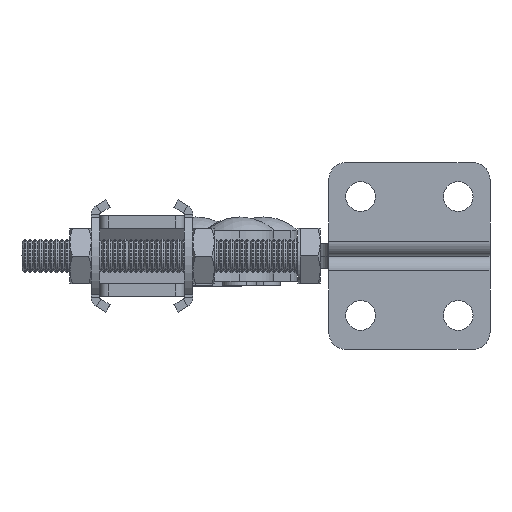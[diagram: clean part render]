
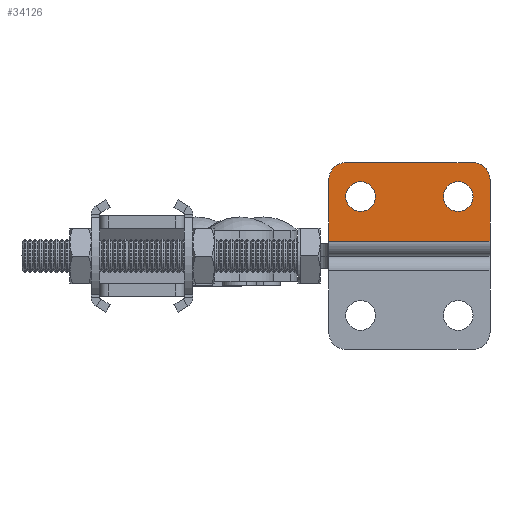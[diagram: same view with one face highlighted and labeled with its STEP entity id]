
A CAD part, left-side view. The second image highlights one B-rep face of the part: STEP entity #34126.
In plain terms, the highlighted planar face has unit normal (-1, 0, 0).
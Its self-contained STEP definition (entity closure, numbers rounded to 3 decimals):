
#644 = DIRECTION ( 'NONE',  ( 1., 0., 0. ) ) ;
#655 = ORIENTED_EDGE ( 'NONE', *, *, #2607, .T. ) ;
#1024 = DIRECTION ( 'NONE',  ( 0., 0., 1. ) ) ;
#1273 = CARTESIAN_POINT ( 'NONE',  ( -67., 4., 18. ) ) ;
#1293 = CARTESIAN_POINT ( 'NONE',  ( -67., 30.5, 14. ) ) ;
#2129 = LINE ( 'NONE', #16642, #14666 ) ;
#2181 = CARTESIAN_POINT ( 'NONE',  ( -67., 34., 18. ) ) ;
#2607 = EDGE_CURVE ( 'NONE', #29112, #19623, #3043, .T. ) ;
#2635 = DIRECTION ( 'NONE',  ( 0., 0., -1. ) ) ;
#2743 = VERTEX_POINT ( 'NONE', #55167 ) ;
#2873 = CARTESIAN_POINT ( 'NONE',  ( -67., 0., 3.5 ) ) ;
#3043 = CIRCLE ( 'NONE', #3358, 4. ) ;
#3358 = AXIS2_PLACEMENT_3D ( 'NONE', #2181, #35123, #6921 ) ;
#4458 = CARTESIAN_POINT ( 'NONE',  ( -67., 0., 22. ) ) ;
#5032 = EDGE_CURVE ( 'NONE', #38546, #54286, #37333, .T. ) ;
#5650 = ORIENTED_EDGE ( 'NONE', *, *, #21322, .T. ) ;
#6012 = DIRECTION ( 'NONE',  ( 0., 0., -1. ) ) ;
#6036 = DIRECTION ( 'NONE',  ( 0., 0., 1. ) ) ;
#6921 = DIRECTION ( 'NONE',  ( 0., 0., -1. ) ) ;
#7484 = ORIENTED_EDGE ( 'NONE', *, *, #20367, .F. ) ;
#7695 = LINE ( 'NONE', #55584, #42302 ) ;
#9392 = CARTESIAN_POINT ( 'NONE',  ( -67., 38., 18. ) ) ;
#10076 = AXIS2_PLACEMENT_3D ( 'NONE', #54179, #25970, #58951 ) ;
#10813 = FACE_BOUND ( 'NONE', #59793, .T. ) ;
#11149 = CARTESIAN_POINT ( 'NONE',  ( -67., 30.5, 17.5 ) ) ;
#11291 = AXIS2_PLACEMENT_3D ( 'NONE', #1273, #34215, #6012 ) ;
#13107 = DIRECTION ( 'NONE',  ( -1., 0., 0. ) ) ;
#13247 = DIRECTION ( 'NONE',  ( 0., 1., 0. ) ) ;
#13467 = CARTESIAN_POINT ( 'NONE',  ( -67., 7.5, 10.5 ) ) ;
#14666 = VECTOR ( 'NONE', #2635, 1000. ) ;
#14740 = EDGE_CURVE ( 'NONE', #2743, #27736, #19716, .T. ) ;
#16642 = CARTESIAN_POINT ( 'NONE',  ( -67., 38., 3. ) ) ;
#18292 = VERTEX_POINT ( 'NONE', #58034 ) ;
#19391 = CIRCLE ( 'NONE', #10076, 3.5 ) ;
#19574 = CARTESIAN_POINT ( 'NONE',  ( -67., 38., 3.5 ) ) ;
#19623 = VERTEX_POINT ( 'NONE', #9392 ) ;
#19714 = ORIENTED_EDGE ( 'NONE', *, *, #5032, .F. ) ;
#19716 = CIRCLE ( 'NONE', #39066, 3.5 ) ;
#19759 = LINE ( 'NONE', #36729, #57387 ) ;
#20367 = EDGE_CURVE ( 'NONE', #27736, #2743, #41827, .T. ) ;
#21057 = EDGE_CURVE ( 'NONE', #18292, #29112, #19759, .T. ) ;
#21213 = ORIENTED_EDGE ( 'NONE', *, *, #48304, .F. ) ;
#21322 = EDGE_CURVE ( 'NONE', #33028, #18292, #58108, .T. ) ;
#21804 = CARTESIAN_POINT ( 'NONE',  ( -67., 34., 22. ) ) ;
#21926 = FACE_OUTER_BOUND ( 'NONE', #32386, .T. ) ;
#22821 = ORIENTED_EDGE ( 'NONE', *, *, #23725, .T. ) ;
#23725 = EDGE_CURVE ( 'NONE', #39510, #33028, #60790, .T. ) ;
#25970 = DIRECTION ( 'NONE',  ( -1., 0., 0. ) ) ;
#27355 = DIRECTION ( 'NONE',  ( 0., 1., 0. ) ) ;
#27736 = VERTEX_POINT ( 'NONE', #13467 ) ;
#27890 = ORIENTED_EDGE ( 'NONE', *, *, #42830, .F. ) ;
#28382 = VERTEX_POINT ( 'NONE', #19574 ) ;
#28884 = CARTESIAN_POINT ( 'NONE',  ( -67., 0., 0. ) ) ;
#29112 = VERTEX_POINT ( 'NONE', #21804 ) ;
#29264 = DIRECTION ( 'NONE',  ( -1., 0., 0. ) ) ;
#32386 = EDGE_LOOP ( 'NONE', ( #22821, #5650, #37893, #655, #52233, #21213 ) ) ;
#32680 = DIRECTION ( 'NONE',  ( 0., 0., 1. ) ) ;
#33028 = VERTEX_POINT ( 'NONE', #51087 ) ;
#33588 = DIRECTION ( 'NONE',  ( 0., 0., -1. ) ) ;
#34126 = ADVANCED_FACE ( 'NONE', ( #10813, #34395, #21926 ), #56936, .F. ) ;
#34215 = DIRECTION ( 'NONE',  ( -1., 0., 0. ) ) ;
#34231 = DIRECTION ( 'NONE',  ( -1., 0., 0. ) ) ;
#34395 = FACE_BOUND ( 'NONE', #44874, .T. ) ;
#35123 = DIRECTION ( 'NONE',  ( -1., 0., 0. ) ) ;
#35637 = VECTOR ( 'NONE', #32680, 1000. ) ;
#36729 = CARTESIAN_POINT ( 'NONE',  ( -67., 38., 22. ) ) ;
#36911 = AXIS2_PLACEMENT_3D ( 'NONE', #41344, #13107, #46092 ) ;
#36957 = CARTESIAN_POINT ( 'NONE',  ( -67., 30.5, 10.5 ) ) ;
#37333 = CIRCLE ( 'NONE', #54035, 3.5 ) ;
#37893 = ORIENTED_EDGE ( 'NONE', *, *, #21057, .T. ) ;
#38406 = ORIENTED_EDGE ( 'NONE', *, *, #14740, .F. ) ;
#38546 = VERTEX_POINT ( 'NONE', #36957 ) ;
#39066 = AXIS2_PLACEMENT_3D ( 'NONE', #57519, #29264, #1024 ) ;
#39510 = VERTEX_POINT ( 'NONE', #2873 ) ;
#41344 = CARTESIAN_POINT ( 'NONE',  ( -67., 7.5, 14. ) ) ;
#41827 = CIRCLE ( 'NONE', #36911, 3.5 ) ;
#42302 = VECTOR ( 'NONE', #27355, 1000. ) ;
#42830 = EDGE_CURVE ( 'NONE', #54286, #38546, #19391, .T. ) ;
#44874 = EDGE_LOOP ( 'NONE', ( #27890, #19714 ) ) ;
#46092 = DIRECTION ( 'NONE',  ( 0., 0., 1. ) ) ;
#47631 = AXIS2_PLACEMENT_3D ( 'NONE', #28884, #644, #33588 ) ;
#48304 = EDGE_CURVE ( 'NONE', #39510, #28382, #7695, .T. ) ;
#51087 = CARTESIAN_POINT ( 'NONE',  ( -67., 0., 18. ) ) ;
#52233 = ORIENTED_EDGE ( 'NONE', *, *, #54923, .T. ) ;
#54035 = AXIS2_PLACEMENT_3D ( 'NONE', #1293, #34231, #6036 ) ;
#54179 = CARTESIAN_POINT ( 'NONE',  ( -67., 30.5, 14. ) ) ;
#54286 = VERTEX_POINT ( 'NONE', #11149 ) ;
#54923 = EDGE_CURVE ( 'NONE', #19623, #28382, #2129, .T. ) ;
#55167 = CARTESIAN_POINT ( 'NONE',  ( -67., 7.5, 17.5 ) ) ;
#55584 = CARTESIAN_POINT ( 'NONE',  ( -67., 0., 3.5 ) ) ;
#56936 = PLANE ( 'NONE',  #47631 ) ;
#57387 = VECTOR ( 'NONE', #13247, 1000. ) ;
#57519 = CARTESIAN_POINT ( 'NONE',  ( -67., 7.5, 14. ) ) ;
#58034 = CARTESIAN_POINT ( 'NONE',  ( -67., 4., 22. ) ) ;
#58108 = CIRCLE ( 'NONE', #11291, 4. ) ;
#58951 = DIRECTION ( 'NONE',  ( 0., 0., 1. ) ) ;
#59793 = EDGE_LOOP ( 'NONE', ( #38406, #7484 ) ) ;
#60790 = LINE ( 'NONE', #4458, #35637 ) ;
